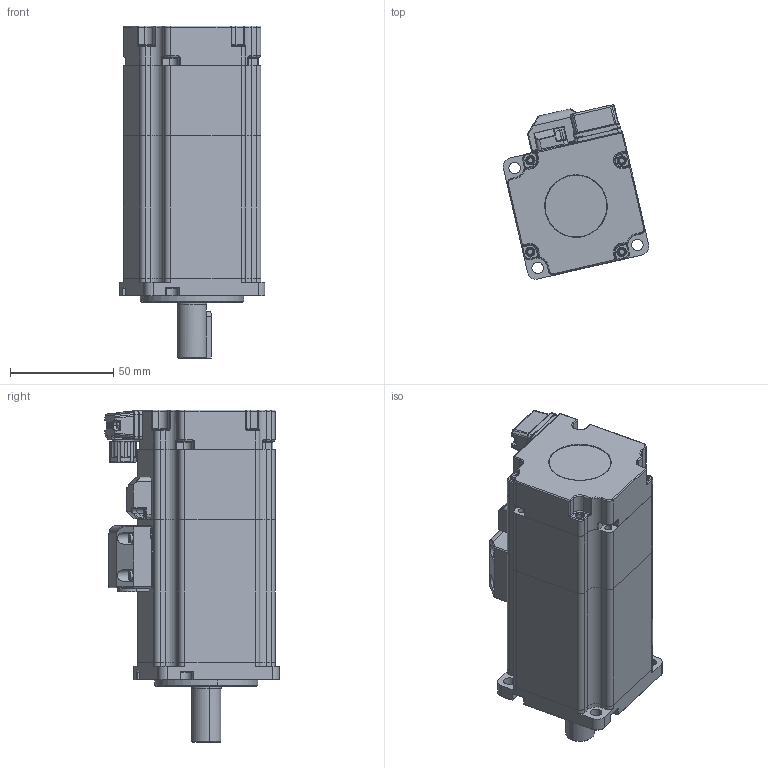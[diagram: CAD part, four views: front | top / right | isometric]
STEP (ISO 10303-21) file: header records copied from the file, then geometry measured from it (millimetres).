
FILE_DESCRIPTION (( 'STEP AP214' ), '1' );
FILE_NAME ('400W低压电机 带刹车（插座式）.STEP', '2023-07-03T02:11:10', ( '' ), ( '' ), 'SwSTEP 2.0', 'SolidWorks 2014', '' );
FILE_SCHEMA (( 'AUTOMOTIVE_DESIGN' ));
Length unit declared in the file: millimetre
Products named in the file (16): 低压电机动力压线盖_1_1; SC40陔晤鎢ん瑤脣釱sc-mc7p-a6-zhichuxianchazuo; ヶ傷裔_60價釱-201126_1; 60-10-26-8粣創_1; 40#价陬堤盄揤盄裔; 60- 15-32-9粣創_1; 蚐猾 D00B999YF2-TC 15-22-5_1; 400W儂褲-腴揤_1; 400W低压电机 带刹车（插座式）; 揤盄裔躇猾菜 - 8.5; 普通型 平键   C 5x5x22.5 带M3起键螺钉孔; GB_CROSS_SCREWS_TYPE3 M2.5X12-12-C_GB_CROSS_SCREWS_TYPE3 M2.5X12-12-C_1_1; 60#刹车轴-配38 磁编-低压; 60陔晤鎢ん綴欶-201126; SC40陔晤鎢ん瑤脣芛sc-mc7s-a6-zhixianchatou; 綴傷裔ㄗ湍价陬ㄘ
Assembly tree (18 placements, depth 2):
  400W低压电机 带刹车（插座式）
    低压电机动力压线盖_1_1
    400W儂褲-腴揤_1
    GB_CROSS_SCREWS_TYPE3 M2.5X12-12-C_GB_CROSS_SCREWS_TYPE3 M2.5X12-12-C_1_1  x4
    綴傷裔ㄗ湍价陬ㄘ
    ヶ傷裔_60價釱-201126_1
    60-10-26-8粣創_1
    60- 15-32-9粣創_1
    60#刹车轴-配38 磁编-低压
    揤盄裔躇猾菜 - 8.5
    60陔晤鎢ん綴欶-201126
    蚐猾 D00B999YF2-TC 15-22-5_1
    SC40陔晤鎢ん瑤脣釱sc-mc7p-a6-zhichuxianchazuo
    40#价陬堤盄揤盄裔
    SC40陔晤鎢ん瑤脣芛sc-mc7s-a6-zhixianchatou
    普通型 平键   C 5x5x22.5 带M3起键螺钉孔
Bounding box: 70.34 x 84.17 x 160.5 mm (x, y, z)
Volume: 183983.4 mm3; surface area: 112103.3 mm2
Topology: 27 solids, 27 shells, 4410 faces, 11667 edges, 7149 vertices
Faces by surface type: plane 1831, cylinder 1462, bspline 618, torus 249, cone 167, sphere 83
Entity records: 210090 total; most frequent: CARTESIAN_POINT 63318, ORIENTED_EDGE 22504, DIRECTION 19281, EDGE_CURVE 11252, VERTEX_POINT 7021, AXIS2_PLACEMENT_3D 6682, LINE 5917, VECTOR 5917
